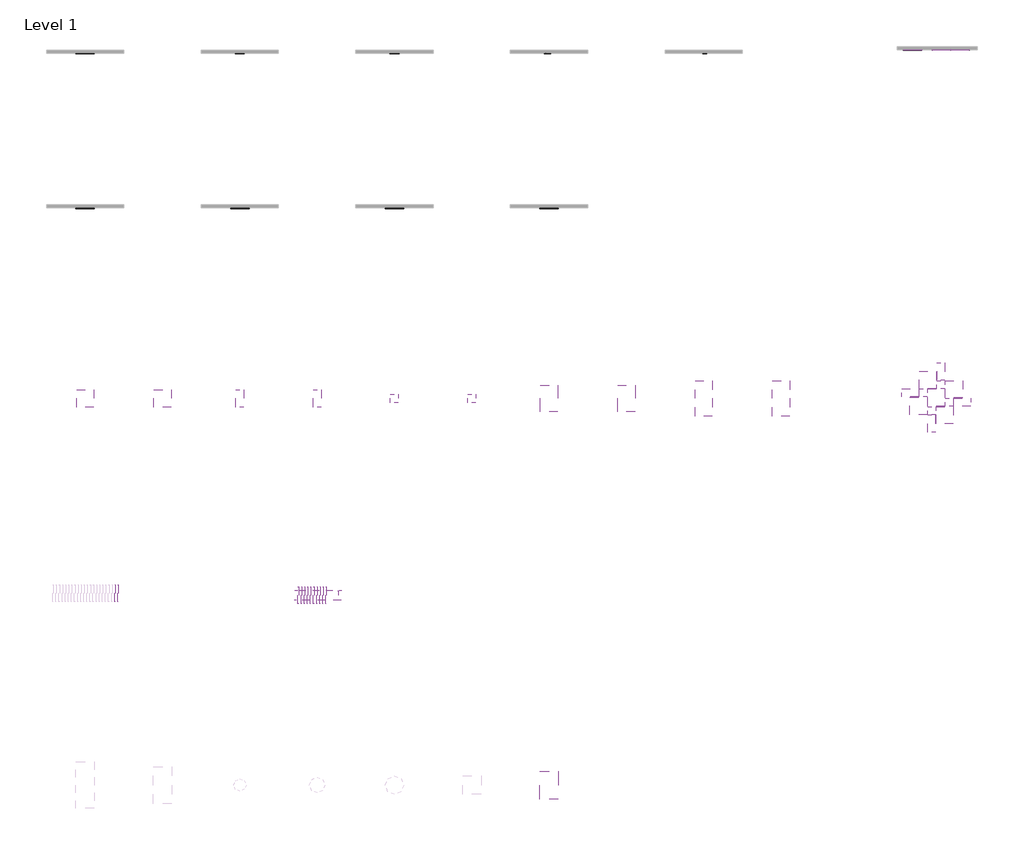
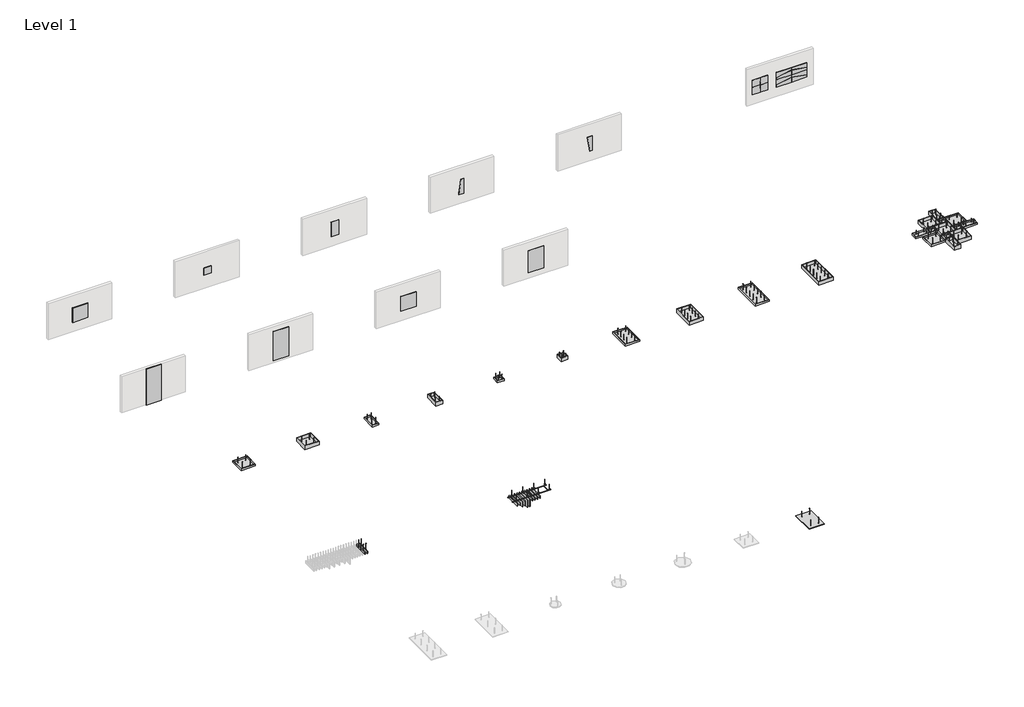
# One storey, part 2 of 2: 58 proxies.
"""IFC4 building model written with IfcOpenShell, lengths in millimetres."""

from ifc_helpers import new_model, si_unit, origin, place, context, project, spatial, transform, mapped, element, save
from components import specialty_equipment_2f9c71bf, one_72121b87, freestyle_qs_1a5b652e, freestyle_r_68592092, freestyle_tl_5bec2b6c, freestyle_tr_f36e938a, l1_61a87858, l1_92acadb2, l2_f4ee8ea0, m1_293964e8, m1_c52b9d84, m2_2ed46d6e, owa_freestyle_baffle_freestyle_l_for_s3_43a2b04f, owa_freestyle_baffle_freestyle_l_for_s3_53db9574, owa_freestyle_baffle_freestyle_m_for_s3_c351b4da, owa_freestyle_baffle_freestyle_s_ccccea6c, owa_freestyle_baffle_freestyle_s_for_s3_476cd958, owa_freestyle_baffle_s3_mounting_system_owa_freestyle_baffle_da68aab5, owa_freestyle_baffle_s3_mounting_system_owa_freestyle_baffle_664c1bcd, owa_freestyle_baffle_s3_mounting_system_owa_freestyle_baffle_da7934dc, owa_freestyle_baffle_s3_mounting_system_owa_freestyle_baffle_053d8222, s1_047c2050, s1_dd011107, s2_c28525dc, xl1_91a5b90b, xl1_b52fa71d, xl2_f6d5a700, xxl1_c829c97f, xxl1_e1fdb5e4, xxl2_2bb92154, grande_378761da, grande_xl_f58ea504, plus_e1e81a9f

model = new_model("IFC4")

# Units and contexts
model_context = context("Model", 3, world=origin())
ifc_project = project(units=[si_unit("LENGTHUNIT", "METRE", prefix="MILLI")], contexts=[model_context])

# Site, building, storey
site = spatial("IfcSite", under=ifc_project)
building = spatial("IfcBuilding", under=site)
storey = spatial("IfcBuildingStorey", under=building, Name="Level 1", Elevation=0.0)

# Proxies
placement = place(None, origin())
specialty_equipment_shape = specialty_equipment_2f9c71bf(model_context)
element("IfcBuildingElementProxy", 1, Name="OWA Selecta : Selecta plus", ObjectType="OWA Selecta : Selecta plus", at=placement, inside=storey, context=model_context, shape_type="MappedRepresentation", body=[
    mapped(specialty_equipment_shape, transform((32612.2416021, -19326.8850129, 2850.0), x_axis=(0.0, -1.0, 0.0), y_axis=(-1.0, 0.0, 0.0), z_axis=(0.0, 0.0, -1.0))),
])
one_shape = one_72121b87(model_context)
element("IfcBuildingElementProxy", 2, Name="OWA FreeStyle wall absorber : FreeStyle Q", ObjectType="OWA FreeStyle wall absorber : FreeStyle Q", at=placement, inside=storey, context=model_context, shape_type="MappedRepresentation", body=[
    mapped(one_shape, transform((3045.7416021, 28426.6149871, 1400.0), x_axis=(1.0, 0.0, 0.0), y_axis=(0.0, 0.0, 1.0), z_axis=(0.0, -1.0, 0.0))),
])
freestyle_qs_shape = freestyle_qs_1a5b652e(model_context)
element("IfcBuildingElementProxy", 3, Name="OWA FreeStyle wall absorber : FreeStyle QS", ObjectType="OWA FreeStyle wall absorber : FreeStyle QS", at=placement, inside=storey, context=model_context, shape_type="MappedRepresentation", body=[
    mapped(freestyle_qs_shape, transform((13045.7416021, 28426.6149871, 1400.0), x_axis=(1.0, 0.0, 0.0), y_axis=(0.0, 0.0, 1.0), z_axis=(0.0, -1.0, 0.0))),
])
element("IfcBuildingElementProxy", 4, Name="OWA FreeStyle wall absorber : FreeStyle QS", ObjectType="OWA FreeStyle wall absorber : FreeStyle QS", at=placement, inside=storey, context=model_context, shape_type="MappedRepresentation", body=[
    mapped(freestyle_qs_shape, transform((56245.7416021, 28666.6149871, 1122.9604097), x_axis=(1.0, 0.0, 0.0), y_axis=(0.0, 0.0, 1.0), z_axis=(0.0, -1.0, 0.0))),
])
element("IfcBuildingElementProxy", 5, Name="OWA FreeStyle wall absorber : FreeStyle QS", ObjectType="OWA FreeStyle wall absorber : FreeStyle QS", at=placement, inside=storey, context=model_context, shape_type="MappedRepresentation", body=[
    mapped(freestyle_qs_shape, transform((55378.7416021, 28666.6149871, 1722.9604097), x_axis=(-1.0, 0.0, 0.0), y_axis=(0.0, 0.0, -1.0), z_axis=(0.0, -1.0, 0.0))),
])
element("IfcBuildingElementProxy", 6, Name="OWA FreeStyle wall absorber : FreeStyle QS", ObjectType="OWA FreeStyle wall absorber : FreeStyle QS", at=placement, inside=storey, context=model_context, shape_type="MappedRepresentation", body=[
    mapped(freestyle_qs_shape, transform((55978.7416021, 28666.6149871, 1122.9604097), x_axis=(-1.0, 0.0, 0.0), y_axis=(0.0, 0.0, -1.0), z_axis=(0.0, -1.0, 0.0))),
])
element("IfcBuildingElementProxy", 7, Name="OWA FreeStyle wall absorber : FreeStyle QS", ObjectType="OWA FreeStyle wall absorber : FreeStyle QS", at=placement, inside=storey, context=model_context, shape_type="MappedRepresentation", body=[
    mapped(freestyle_qs_shape, transform((56845.7416021, 28666.6149871, 1722.9604097), x_axis=(1.0, 0.0, 0.0), y_axis=(0.0, 0.0, 1.0), z_axis=(0.0, -1.0, 0.0))),
])
freestyle_r_shape = freestyle_r_68592092(model_context)
element("IfcBuildingElementProxy", 8, Name="OWA FreeStyle wall absorber : FreeStyle R", ObjectType="OWA FreeStyle wall absorber : FreeStyle R", at=placement, inside=storey, context=model_context, shape_type="MappedRepresentation", body=[
    mapped(freestyle_r_shape, transform((23045.7416021, 28426.6149871, 1400.0), x_axis=(1.0, 0.0, 0.0), y_axis=(0.0, 0.0, 1.0), z_axis=(0.0, -1.0, 0.0))),
])
freestyle_tl_shape = freestyle_tl_5bec2b6c(model_context)
element("IfcBuildingElementProxy", 9, Name="OWA FreeStyle wall absorber : FreeStyle TL", ObjectType="OWA FreeStyle wall absorber : FreeStyle TL", at=placement, inside=storey, context=model_context, shape_type="MappedRepresentation", body=[
    mapped(freestyle_tl_shape, transform((33045.7416021, 28426.6149871, 1400.0), x_axis=(1.0, 0.0, 0.0), y_axis=(0.0, 0.0, 1.0), z_axis=(0.0, -1.0, 0.0))),
])
element("IfcBuildingElementProxy", 10, Name="OWA FreeStyle wall absorber : FreeStyle TL", ObjectType="OWA FreeStyle wall absorber : FreeStyle TL", at=placement, inside=storey, context=model_context, shape_type="MappedRepresentation", body=[
    mapped(freestyle_tl_shape, transform((59192.2416021, 28666.6149871, 1059.123501), x_axis=(0.0, 0.0, -1.0), y_axis=(1.0, 0.0, 0.0), z_axis=(0.0, -1.0, 0.0))),
])
element("IfcBuildingElementProxy", 11, Name="OWA FreeStyle wall absorber : FreeStyle TL", ObjectType="OWA FreeStyle wall absorber : FreeStyle TL", at=placement, inside=storey, context=model_context, shape_type="MappedRepresentation", body=[
    mapped(freestyle_tl_shape, transform((59192.2416021, 28666.6149871, 2326.123501), x_axis=(0.0, 0.0, 1.0), y_axis=(-1.0, 0.0, 0.0), z_axis=(0.0, -1.0, 0.0))),
])
element("IfcBuildingElementProxy", 12, Name="OWA FreeStyle wall absorber : FreeStyle TL", ObjectType="OWA FreeStyle wall absorber : FreeStyle TL", at=placement, inside=storey, context=model_context, shape_type="MappedRepresentation", body=[
    mapped(freestyle_tl_shape, transform((59192.2416021, 28666.6149871, 1726.123501), x_axis=(0.0, 0.0, 1.0), y_axis=(-1.0, 0.0, 0.0), z_axis=(0.0, -1.0, 0.0))),
])
element("IfcBuildingElementProxy", 13, Name="OWA FreeStyle wall absorber : FreeStyle TL", ObjectType="OWA FreeStyle wall absorber : FreeStyle TL", at=placement, inside=storey, context=model_context, shape_type="MappedRepresentation", body=[
    mapped(freestyle_tl_shape, transform((59192.2416021, 28666.6149871, 459.123501), x_axis=(0.0, 0.0, -1.0), y_axis=(1.0, 0.0, 0.0), z_axis=(0.0, -1.0, 0.0))),
])
freestyle_tr_shape = freestyle_tr_f36e938a(model_context)
element("IfcBuildingElementProxy", 14, Name="OWA FreeStyle wall absorber : FreeStyle TR", ObjectType="OWA FreeStyle wall absorber : FreeStyle TR", at=placement, inside=storey, context=model_context, shape_type="MappedRepresentation", body=[
    mapped(freestyle_tr_shape, transform((43045.7416021, 28426.6149871, 1400.0), x_axis=(1.0, 0.0, 0.0), y_axis=(0.0, 0.0, 1.0), z_axis=(0.0, -1.0, 0.0))),
])
element("IfcBuildingElementProxy", 15, Name="OWA FreeStyle wall absorber : FreeStyle TR", ObjectType="OWA FreeStyle wall absorber : FreeStyle TR", at=placement, inside=storey, context=model_context, shape_type="MappedRepresentation", body=[
    mapped(freestyle_tr_shape, transform((57992.2416021, 28666.6149871, 559.123501), x_axis=(0.0, 0.0, -1.0), y_axis=(1.0, 0.0, 0.0), z_axis=(0.0, -1.0, 0.0))),
])
element("IfcBuildingElementProxy", 16, Name="OWA FreeStyle wall absorber : FreeStyle TR", ObjectType="OWA FreeStyle wall absorber : FreeStyle TR", at=placement, inside=storey, context=model_context, shape_type="MappedRepresentation", body=[
    mapped(freestyle_tr_shape, transform((57992.2416021, 28666.6149871, 2226.123501), x_axis=(0.0, 0.0, 1.0), y_axis=(-1.0, 0.0, 0.0), z_axis=(0.0, -1.0, 0.0))),
])
element("IfcBuildingElementProxy", 17, Name="OWA FreeStyle wall absorber : FreeStyle TR", ObjectType="OWA FreeStyle wall absorber : FreeStyle TR", at=placement, inside=storey, context=model_context, shape_type="MappedRepresentation", body=[
    mapped(freestyle_tr_shape, transform((57992.2416021, 28666.6149871, 1159.123501), x_axis=(0.0, 0.0, -1.0), y_axis=(1.0, 0.0, 0.0), z_axis=(0.0, -1.0, 0.0))),
])
element("IfcBuildingElementProxy", 18, Name="OWA FreeStyle wall absorber : FreeStyle TR", ObjectType="OWA FreeStyle wall absorber : FreeStyle TR", at=placement, inside=storey, context=model_context, shape_type="MappedRepresentation", body=[
    mapped(freestyle_tr_shape, transform((57992.2416021, 28666.6149871, 1626.123501), x_axis=(0.0, 0.0, 1.0), y_axis=(-1.0, 0.0, 0.0), z_axis=(0.0, -1.0, 0.0))),
])
l1_shape = l1_61a87858(model_context)
element("IfcBuildingElementProxy", 19, Name="OWA Corpus : L1", ObjectType="OWA Corpus : L1", at=placement, inside=storey, context=model_context, shape_type="MappedRepresentation", body=[
    mapped(l1_shape, transform((2612.2416021, 5673.1149871, 2850.0), x_axis=(0.0, -1.0, 0.0), y_axis=(-1.0, 0.0, 0.0), z_axis=(0.0, 0.0, -1.0))),
])
element("IfcBuildingElementProxy", 20, Name="OWA Corpus : L1", ObjectType="OWA Corpus : L1", at=placement, inside=storey, context=model_context, shape_type="MappedRepresentation", body=[
    mapped(l1_shape, transform((56507.2416021, 6060.1149871, 2850.0), x_axis=(0.0, 1.0, 0.0), y_axis=(1.0, 0.0, 0.0), z_axis=(0.0, 0.0, -1.0))),
])
l1_2_shape = l1_92acadb2(model_context)
element("IfcBuildingElementProxy", 21, Name="OWA Corpus : L1", ObjectType="OWA Corpus : L1", at=placement, inside=storey, context=model_context, shape_type="MappedRepresentation", body=[
    mapped(l1_2_shape, transform((58787.2416021, 7140.1149871, 2850.0), x_axis=(0.0, 1.0, 0.0), y_axis=(1.0, 0.0, 0.0), z_axis=(0.0, 0.0, -1.0))),
])
l2_shape = l2_f4ee8ea0(model_context)
element("IfcBuildingElementProxy", 22, Name="OWA Corpus : L2", ObjectType="OWA Corpus : L2", at=placement, inside=storey, context=model_context, shape_type="MappedRepresentation", body=[
    mapped(l2_shape, transform((7612.2416021, 5673.1149871, 2850.0), x_axis=(0.0, -1.0, 0.0), y_axis=(-1.0, 0.0, 0.0), z_axis=(0.0, 0.0, -1.0))),
])
element("IfcBuildingElementProxy", 23, Name="OWA Corpus : L2", ObjectType="OWA Corpus : L2", at=placement, inside=storey, context=model_context, shape_type="MappedRepresentation", body=[
    mapped(l2_shape, transform((57647.2416021, 6600.1149871, 2850.0), x_axis=(0.0, 1.0, 0.0), y_axis=(1.0, 0.0, 0.0), z_axis=(0.0, 0.0, -1.0))),
])
element("IfcBuildingElementProxy", 24, Name="OWA Corpus : L2", ObjectType="OWA Corpus : L2", at=placement, inside=storey, context=model_context, shape_type="MappedRepresentation", body=[
    mapped(l2_shape, transform((57107.2416021, 7740.1149871, 2850.0), x_axis=(0.0, 1.0, 0.0), y_axis=(1.0, 0.0, 0.0), z_axis=(0.0, 0.0, -1.0))),
])
element("IfcBuildingElementProxy", 25, Name="OWA Corpus : L2", ObjectType="OWA Corpus : L2", at=placement, inside=storey, context=model_context, shape_type="MappedRepresentation", body=[
    mapped(l2_shape, transform((58187.2416021, 5460.1149871, 2850.0), x_axis=(0.0, 1.0, 0.0), y_axis=(1.0, 0.0, 0.0), z_axis=(0.0, 0.0, -1.0))),
])
m1_shape = m1_293964e8(model_context)
element("IfcBuildingElementProxy", 26, Name="OWA Corpus : M1", ObjectType="OWA Corpus : M1", at=placement, inside=storey, context=model_context, shape_type="MappedRepresentation", body=[
    mapped(m1_shape, transform((12612.2416021, 5673.1149871, 2850.0), x_axis=(0.0, -1.0, 0.0), y_axis=(-1.0, 0.0, 0.0), z_axis=(0.0, 0.0, -1.0))),
])
m1_2_shape = m1_c52b9d84(model_context)
element("IfcBuildingElementProxy", 27, Name="OWA Corpus : M1", ObjectType="OWA Corpus : M1", at=placement, inside=storey, context=model_context, shape_type="MappedRepresentation", body=[
    mapped(m1_2_shape, transform((59760.7416021, 5866.6149871, 2850.0), x_axis=(1.0, 0.0, 0.0), y_axis=(0.0, -1.0, 0.0), z_axis=(0.0, 0.0, -1.0))),
])
element("IfcBuildingElementProxy", 28, Name="OWA Corpus : M1", ObjectType="OWA Corpus : M1", at=placement, inside=storey, context=model_context, shape_type="MappedRepresentation", body=[
    mapped(m1_2_shape, transform((55533.7416021, 6466.6149871, 2850.0), x_axis=(-1.0, 0.0, 0.0), y_axis=(0.0, 1.0, 0.0), z_axis=(0.0, 0.0, -1.0))),
])
m2_shape = m2_2ed46d6e(model_context)
element("IfcBuildingElementProxy", 29, Name="OWA Corpus : M2", ObjectType="OWA Corpus : M2", at=placement, inside=storey, context=model_context, shape_type="MappedRepresentation", body=[
    mapped(m2_shape, transform((17612.2416021, 5673.1149871, 2850.0), x_axis=(0.0, -1.0, 0.0), y_axis=(-1.0, 0.0, 0.0), z_axis=(0.0, 0.0, -1.0))),
])
element("IfcBuildingElementProxy", 30, Name="OWA Corpus : M2", ObjectType="OWA Corpus : M2", at=placement, inside=storey, context=model_context, shape_type="MappedRepresentation", body=[
    mapped(m2_shape, transform((57947.2416021, 8280.1149871, 2850.0), x_axis=(0.0, 1.0, 0.0), y_axis=(1.0, 0.0, 0.0), z_axis=(0.0, 0.0, -1.0))),
])
element("IfcBuildingElementProxy", 31, Name="OWA Corpus : M2", ObjectType="OWA Corpus : M2", at=placement, inside=storey, context=model_context, shape_type="MappedRepresentation", body=[
    mapped(m2_shape, transform((57347.2416021, 4920.1149871, 2850.0), x_axis=(0.0, 1.0, 0.0), y_axis=(1.0, 0.0, 0.0), z_axis=(0.0, 0.0, -1.0))),
])
owa_freestyle_baffle_freestyle_l_for_s3_shape = owa_freestyle_baffle_freestyle_l_for_s3_43a2b04f(model_context)
owa_freestyle_baffle_freestyle_l_for_s3_2_shape = owa_freestyle_baffle_freestyle_l_for_s3_53db9574(model_context)
element("IfcBuildingElementProxy", 32, Name="OWA FreeStyle Baffle : FreeStyle L for S3", ObjectType="OWA FreeStyle Baffle : FreeStyle L for S3", at=placement, inside=storey, context=model_context, shape_type="MappedRepresentation", body=[
    mapped(owa_freestyle_baffle_freestyle_l_for_s3_shape, transform((17193.0169617, -7052.6381787, 2350.0), x_axis=(0.0, -1.0, 0.0), y_axis=(-1.0, 0.0, 0.0), z_axis=(0.0, 0.0, -1.0))),
    mapped(owa_freestyle_baffle_freestyle_l_for_s3_2_shape, transform((17193.0169617, -7052.6381787, 2350.0), x_axis=(0.0, -1.0, 0.0), y_axis=(-1.0, 0.0, 0.0), z_axis=(0.0, 0.0, -1.0))),
])
element("IfcBuildingElementProxy", 33, Name="OWA FreeStyle Baffle : FreeStyle L for S3", ObjectType="OWA FreeStyle Baffle : FreeStyle L for S3", at=placement, inside=storey, context=model_context, shape_type="MappedRepresentation", body=[
    mapped(owa_freestyle_baffle_freestyle_l_for_s3_shape, transform((17393.0169617, -7052.6381787, 2350.0), x_axis=(0.0, -1.0, 0.0), y_axis=(-1.0, 0.0, 0.0), z_axis=(0.0, 0.0, -1.0))),
    mapped(owa_freestyle_baffle_freestyle_l_for_s3_2_shape, transform((17393.0169617, -7052.6381787, 2350.0), x_axis=(0.0, -1.0, 0.0), y_axis=(-1.0, 0.0, 0.0), z_axis=(0.0, 0.0, -1.0))),
])
owa_freestyle_baffle_freestyle_m_for_s3_shape = owa_freestyle_baffle_freestyle_m_for_s3_c351b4da(model_context)
element("IfcBuildingElementProxy", 34, Name="OWA FreeStyle Baffle : FreeStyle M for S3", ObjectType="OWA FreeStyle Baffle : FreeStyle M for S3", at=placement, inside=storey, context=model_context, shape_type="MappedRepresentation", body=[
    mapped(owa_freestyle_baffle_freestyle_l_for_s3_shape, transform((16793.0169617, -7052.6381787, 2350.0), x_axis=(0.0, -1.0, 0.0), y_axis=(-1.0, 0.0, 0.0), z_axis=(0.0, 0.0, -1.0))),
    mapped(owa_freestyle_baffle_freestyle_m_for_s3_shape, transform((16793.0169617, -7052.6381787, 2350.0), x_axis=(0.0, -1.0, 0.0), y_axis=(-1.0, 0.0, 0.0), z_axis=(0.0, 0.0, -1.0))),
])
element("IfcBuildingElementProxy", 35, Name="OWA FreeStyle Baffle : FreeStyle M for S3", ObjectType="OWA FreeStyle Baffle : FreeStyle M for S3", at=placement, inside=storey, context=model_context, shape_type="MappedRepresentation", body=[
    mapped(owa_freestyle_baffle_freestyle_l_for_s3_shape, transform((16993.0169617, -7052.6381787, 2350.0), x_axis=(0.0, -1.0, 0.0), y_axis=(-1.0, 0.0, 0.0), z_axis=(0.0, 0.0, -1.0))),
    mapped(owa_freestyle_baffle_freestyle_m_for_s3_shape, transform((16993.0169617, -7052.6381787, 2350.0), x_axis=(0.0, -1.0, 0.0), y_axis=(-1.0, 0.0, 0.0), z_axis=(0.0, 0.0, -1.0))),
])
owa_freestyle_baffle_freestyle_s_shape = owa_freestyle_baffle_freestyle_s_ccccea6c(model_context)
element("IfcBuildingElementProxy", 36, Name="OWA FreeStyle Baffle : FreeStyle S", ObjectType="OWA FreeStyle Baffle : FreeStyle S", at=placement, inside=storey, context=model_context, shape_type="MappedRepresentation", body=[
    mapped(owa_freestyle_baffle_freestyle_s_shape, transform((4535.8983303, -6039.8850129, 2850.0), x_axis=(0.0, 1.0, 0.0), y_axis=(1.0, 0.0, 0.0), z_axis=(0.0, 0.0, -1.0))),
])
element("IfcBuildingElementProxy", 37, Name="OWA FreeStyle Baffle : FreeStyle S", ObjectType="OWA FreeStyle Baffle : FreeStyle S", at=placement, inside=storey, context=model_context, shape_type="MappedRepresentation", body=[
    mapped(owa_freestyle_baffle_freestyle_s_shape, transform((4735.8983303, -6039.8850129, 2850.0), x_axis=(0.0, 1.0, 0.0), y_axis=(1.0, 0.0, 0.0), z_axis=(0.0, 0.0, -1.0))),
])
owa_freestyle_baffle_freestyle_s_for_s3_shape = owa_freestyle_baffle_freestyle_s_for_s3_476cd958(model_context)
element("IfcBuildingElementProxy", 38, Name="OWA FreeStyle Baffle : FreeStyle S for S3", ObjectType="OWA FreeStyle Baffle : FreeStyle S for S3", at=placement, inside=storey, context=model_context, shape_type="MappedRepresentation", body=[
    mapped(owa_freestyle_baffle_freestyle_l_for_s3_shape, transform((16393.0169617, -7052.6381787, 2350.0), x_axis=(0.0, -1.0, 0.0), y_axis=(-1.0, 0.0, 0.0), z_axis=(0.0, 0.0, -1.0))),
    mapped(owa_freestyle_baffle_freestyle_s_for_s3_shape, transform((16393.0169617, -7052.6381787, 2350.0), x_axis=(0.0, -1.0, 0.0), y_axis=(-1.0, 0.0, 0.0), z_axis=(0.0, 0.0, -1.0))),
])
element("IfcBuildingElementProxy", 39, Name="OWA FreeStyle Baffle : FreeStyle S for S3", ObjectType="OWA FreeStyle Baffle : FreeStyle S for S3", at=placement, inside=storey, context=model_context, shape_type="MappedRepresentation", body=[
    mapped(owa_freestyle_baffle_freestyle_l_for_s3_shape, transform((16593.0169617, -7052.6381787, 2350.0), x_axis=(0.0, -1.0, 0.0), y_axis=(-1.0, 0.0, 0.0), z_axis=(0.0, 0.0, -1.0))),
    mapped(owa_freestyle_baffle_freestyle_s_for_s3_shape, transform((16593.0169617, -7052.6381787, 2350.0), x_axis=(0.0, -1.0, 0.0), y_axis=(-1.0, 0.0, 0.0), z_axis=(0.0, 0.0, -1.0))),
])
element("IfcBuildingElementProxy", 40, Name="OWA FreeStyle Baffle : FreeStyle S for S3", ObjectType="OWA FreeStyle Baffle : FreeStyle S for S3", at=placement, inside=storey, context=model_context, shape_type="MappedRepresentation", body=[
    mapped(owa_freestyle_baffle_freestyle_l_for_s3_shape, transform((17593.0169617, -7052.6381787, 2350.0), x_axis=(0.0, -1.0, 0.0), y_axis=(-1.0, 0.0, 0.0), z_axis=(0.0, 0.0, -1.0))),
    mapped(owa_freestyle_baffle_freestyle_s_for_s3_shape, transform((17593.0169617, -7052.6381787, 2350.0), x_axis=(0.0, -1.0, 0.0), y_axis=(-1.0, 0.0, 0.0), z_axis=(0.0, 0.0, -1.0))),
])
element("IfcBuildingElementProxy", 41, Name="OWA FreeStyle Baffle : FreeStyle S for S3", ObjectType="OWA FreeStyle Baffle : FreeStyle S for S3", at=placement, inside=storey, context=model_context, shape_type="MappedRepresentation", body=[
    mapped(owa_freestyle_baffle_freestyle_l_for_s3_shape, transform((17793.0169617, -7052.6381787, 2350.0), x_axis=(0.0, -1.0, 0.0), y_axis=(-1.0, 0.0, 0.0), z_axis=(0.0, 0.0, -1.0))),
    mapped(owa_freestyle_baffle_freestyle_s_for_s3_shape, transform((17793.0169617, -7052.6381787, 2350.0), x_axis=(0.0, -1.0, 0.0), y_axis=(-1.0, 0.0, 0.0), z_axis=(0.0, 0.0, -1.0))),
])
element("IfcBuildingElementProxy", 42, Name="OWA FreeStyle Baffle : FreeStyle S for S3", ObjectType="OWA FreeStyle Baffle : FreeStyle S for S3", at=placement, inside=storey, context=model_context, shape_type="MappedRepresentation", body=[
    mapped(owa_freestyle_baffle_freestyle_l_for_s3_shape, transform((17993.0169617, -7052.6381787, 2350.0), x_axis=(0.0, -1.0, 0.0), y_axis=(-1.0, 0.0, 0.0), z_axis=(0.0, 0.0, -1.0))),
    mapped(owa_freestyle_baffle_freestyle_s_for_s3_shape, transform((17993.0169617, -7052.6381787, 2350.0), x_axis=(0.0, -1.0, 0.0), y_axis=(-1.0, 0.0, 0.0), z_axis=(0.0, 0.0, -1.0))),
])
element("IfcBuildingElementProxy", 43, Name="OWA FreeStyle Baffle : FreeStyle S for S3", ObjectType="OWA FreeStyle Baffle : FreeStyle S for S3", at=placement, inside=storey, context=model_context, shape_type="MappedRepresentation", body=[
    mapped(owa_freestyle_baffle_freestyle_l_for_s3_shape, transform((18193.0169617, -7052.6381787, 2350.0), x_axis=(0.0, -1.0, 0.0), y_axis=(-1.0, 0.0, 0.0), z_axis=(0.0, 0.0, -1.0))),
    mapped(owa_freestyle_baffle_freestyle_s_for_s3_shape, transform((18193.0169617, -7052.6381787, 2350.0), x_axis=(0.0, -1.0, 0.0), y_axis=(-1.0, 0.0, 0.0), z_axis=(0.0, 0.0, -1.0))),
])
owa_freestyle_baffle_s3_mounting_system_owa_freestyle_baffle_shape = owa_freestyle_baffle_s3_mounting_system_owa_freestyle_baffle_da68aab5(model_context)
owa_freestyle_baffle_s3_mounting_system_owa_freestyle_baffle_2_shape = owa_freestyle_baffle_s3_mounting_system_owa_freestyle_baffle_664c1bcd(model_context)
owa_freestyle_baffle_s3_mounting_system_owa_freestyle_baffle_3_shape = owa_freestyle_baffle_s3_mounting_system_owa_freestyle_baffle_da7934dc(model_context)
owa_freestyle_baffle_s3_mounting_system_owa_freestyle_baffle_4_shape = owa_freestyle_baffle_s3_mounting_system_owa_freestyle_baffle_053d8222(model_context)
element("IfcBuildingElementProxy", 44, Name="OWA FreeStyle Baffle S3 Mounting System : OWA FreeStyle Baffle S3 Mounting System", ObjectType="OWA FreeStyle Baffle S3 Mounting System : OWA FreeStyle Baffle S3 Mounting System", at=placement, inside=storey, context=model_context, shape_type="MappedRepresentation", body=[
    mapped(owa_freestyle_baffle_s3_mounting_system_owa_freestyle_baffle_shape, transform((16156.1674652, -7052.6381787, 2850.0), x_axis=(0.0, -1.0, 0.0), y_axis=(-1.0, 0.0, 0.0), z_axis=(0.0, 0.0, -1.0))),
    mapped(owa_freestyle_baffle_s3_mounting_system_owa_freestyle_baffle_2_shape, transform((16156.1674652, -7052.6381787, 2850.0), x_axis=(0.0, -1.0, 0.0), y_axis=(-1.0, 0.0, 0.0), z_axis=(0.0, 0.0, -1.0))),
    mapped(owa_freestyle_baffle_s3_mounting_system_owa_freestyle_baffle_3_shape, transform((16156.1674652, -7052.6381787, 2850.0), x_axis=(0.0, -1.0, 0.0), y_axis=(-1.0, 0.0, 0.0), z_axis=(0.0, 0.0, -1.0))),
    mapped(owa_freestyle_baffle_s3_mounting_system_owa_freestyle_baffle_4_shape, transform((16156.1674652, -7052.6381787, 2850.0), x_axis=(0.0, -1.0, 0.0), y_axis=(-1.0, 0.0, 0.0), z_axis=(0.0, 0.0, -1.0))),
])
s1_shape = s1_047c2050(model_context)
element("IfcBuildingElementProxy", 45, Name="OWA Corpus : S1", ObjectType="OWA Corpus : S1", at=placement, inside=storey, context=model_context, shape_type="MappedRepresentation", body=[
    mapped(s1_shape, transform((22612.2416021, 5673.1149871, 2850.0), x_axis=(0.0, -1.0, 0.0), y_axis=(-1.0, 0.0, 0.0), z_axis=(0.0, 0.0, -1.0))),
])
s1_2_shape = s1_dd011107(model_context)
element("IfcBuildingElementProxy", 46, Name="OWA Corpus : S1", ObjectType="OWA Corpus : S1", at=placement, inside=storey, context=model_context, shape_type="MappedRepresentation", body=[
    mapped(s1_2_shape, transform((58053.7416021, 5866.6149871, 2850.0), x_axis=(-1.0, 0.0, 0.0), y_axis=(0.0, 1.0, 0.0), z_axis=(0.0, 0.0, -1.0))),
])
element("IfcBuildingElementProxy", 47, Name="OWA Corpus : S1", ObjectType="OWA Corpus : S1", at=placement, inside=storey, context=model_context, shape_type="MappedRepresentation", body=[
    mapped(s1_2_shape, transform((56807.2416021, 6900.1149871, 2850.0), x_axis=(0.0, 1.0, 0.0), y_axis=(1.0, 0.0, 0.0), z_axis=(0.0, 0.0, -1.0))),
])
element("IfcBuildingElementProxy", 48, Name="OWA Corpus : S1", ObjectType="OWA Corpus : S1", at=placement, inside=storey, context=model_context, shape_type="MappedRepresentation", body=[
    mapped(s1_2_shape, transform((57947.2416021, 7440.1149871, 2850.0), x_axis=(0.0, 1.0, 0.0), y_axis=(1.0, 0.0, 0.0), z_axis=(0.0, 0.0, -1.0))),
])
element("IfcBuildingElementProxy", 49, Name="OWA Corpus : S1", ObjectType="OWA Corpus : S1", at=placement, inside=storey, context=model_context, shape_type="MappedRepresentation", body=[
    mapped(s1_2_shape, transform((57347.2416021, 5760.1149871, 2850.0), x_axis=(0.0, 1.0, 0.0), y_axis=(1.0, 0.0, 0.0), z_axis=(0.0, 0.0, -1.0))),
])
s2_shape = s2_c28525dc(model_context)
element("IfcBuildingElementProxy", 50, Name="OWA Corpus : S2", ObjectType="OWA Corpus : S2", at=placement, inside=storey, context=model_context, shape_type="MappedRepresentation", body=[
    mapped(s2_shape, transform((27612.2416021, 5673.1149871, 2850.0), x_axis=(0.0, -1.0, 0.0), y_axis=(-1.0, 0.0, 0.0), z_axis=(0.0, 0.0, -1.0))),
])
xl1_shape = xl1_91a5b90b(model_context)
xl1_2_shape = xl1_b52fa71d(model_context)
element("IfcBuildingElementProxy", 51, Name="OWA Corpus : XL1", ObjectType="OWA Corpus : XL1", at=placement, inside=storey, context=model_context, shape_type="MappedRepresentation", body=[
    mapped(xl1_shape, transform((32612.2416021, 5673.1149871, 2850.0), x_axis=(0.0, -1.0, 0.0), y_axis=(-1.0, 0.0, 0.0), z_axis=(0.0, 0.0, -1.0))),
    mapped(xl1_2_shape, transform((32612.2416021, 5673.1149871, 2850.0), x_axis=(0.0, -1.0, 0.0), y_axis=(-1.0, 0.0, 0.0), z_axis=(0.0, 0.0, -1.0))),
])
xl2_shape = xl2_f6d5a700(model_context)
element("IfcBuildingElementProxy", 52, Name="OWA Corpus : XL2", ObjectType="OWA Corpus : XL2", at=placement, inside=storey, context=model_context, shape_type="MappedRepresentation", body=[
    mapped(xl1_shape, transform((37612.2416021, 5673.1149871, 2850.0), x_axis=(0.0, -1.0, 0.0), y_axis=(-1.0, 0.0, 0.0), z_axis=(0.0, 0.0, -1.0))),
    mapped(xl2_shape, transform((37612.2416021, 5673.1149871, 2850.0), x_axis=(0.0, -1.0, 0.0), y_axis=(-1.0, 0.0, 0.0), z_axis=(0.0, 0.0, -1.0))),
])
xxl1_shape = xxl1_c829c97f(model_context)
xxl1_2_shape = xxl1_e1fdb5e4(model_context)
element("IfcBuildingElementProxy", 53, Name="OWA Corpus : XXL1", ObjectType="OWA Corpus : XXL1", at=placement, inside=storey, context=model_context, shape_type="MappedRepresentation", body=[
    mapped(xxl1_shape, transform((42612.2416021, 5673.1149871, 2850.0), x_axis=(0.0, -1.0, 0.0), y_axis=(-1.0, 0.0, 0.0), z_axis=(0.0, 0.0, -1.0))),
    mapped(xxl1_2_shape, transform((42612.2416021, 5673.1149871, 2850.0), x_axis=(0.0, -1.0, 0.0), y_axis=(-1.0, 0.0, 0.0), z_axis=(0.0, 0.0, -1.0))),
])
xxl2_shape = xxl2_2bb92154(model_context)
element("IfcBuildingElementProxy", 54, Name="OWA Corpus : XXL2", ObjectType="OWA Corpus : XXL2", at=placement, inside=storey, context=model_context, shape_type="MappedRepresentation", body=[
    mapped(xxl1_shape, transform((47612.2416021, 5673.1149871, 2850.0), x_axis=(0.0, -1.0, 0.0), y_axis=(-1.0, 0.0, 0.0), z_axis=(0.0, 0.0, -1.0))),
    mapped(xxl2_shape, transform((47612.2416021, 5673.1149871, 2850.0), x_axis=(0.0, -1.0, 0.0), y_axis=(-1.0, 0.0, 0.0), z_axis=(0.0, 0.0, -1.0))),
])
grande_shape = grande_378761da(model_context)
element("IfcBuildingElementProxy", 55, Name="OWA Creaprint : grande", ObjectType="OWA Creaprint : grande", at=placement, inside=storey, context=model_context, shape_type="MappedRepresentation", body=[
    mapped(grande_shape, transform((13045.7416021, 18426.6149871, 1400.0), x_axis=(1.0, 0.0, 0.0), y_axis=(0.0, 0.0, 1.0), z_axis=(0.0, -1.0, 0.0))),
])
grande_xl_shape = grande_xl_f58ea504(model_context)
element("IfcBuildingElementProxy", 56, Name="OWA Creaprint : grande XL", ObjectType="OWA Creaprint : grande XL", at=placement, inside=storey, context=model_context, shape_type="MappedRepresentation", body=[
    mapped(grande_xl_shape, transform((3045.7416021, 18426.6149871, 1500.0), x_axis=(1.0, 0.0, 0.0), y_axis=(0.0, 0.0, 1.0), z_axis=(0.0, -1.0, 0.0))),
])
element("IfcBuildingElementProxy", 57, Name="OWA Creaprint : one", ObjectType="OWA Creaprint : one", at=placement, inside=storey, context=model_context, shape_type="MappedRepresentation", body=[
    mapped(one_shape, transform((23045.7416021, 18426.6149871, 1400.0), x_axis=(1.0, 0.0, 0.0), y_axis=(0.0, 0.0, 1.0), z_axis=(0.0, -1.0, 0.0))),
])
plus_shape = plus_e1e81a9f(model_context)
element("IfcBuildingElementProxy", 58, Name="OWA Creaprint : plus", ObjectType="OWA Creaprint : plus", at=placement, inside=storey, context=model_context, shape_type="MappedRepresentation", body=[
    mapped(plus_shape, transform((33045.7416021, 18426.6149871, 1400.0), x_axis=(1.0, 0.0, 0.0), y_axis=(0.0, 0.0, 1.0), z_axis=(0.0, -1.0, 0.0))),
])

save(model, "model.ifc")
